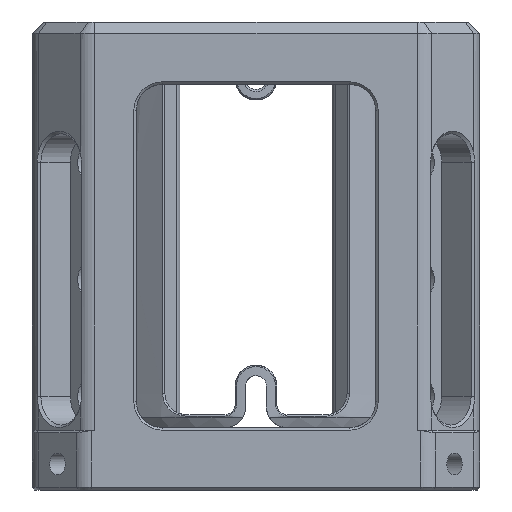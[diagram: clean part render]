
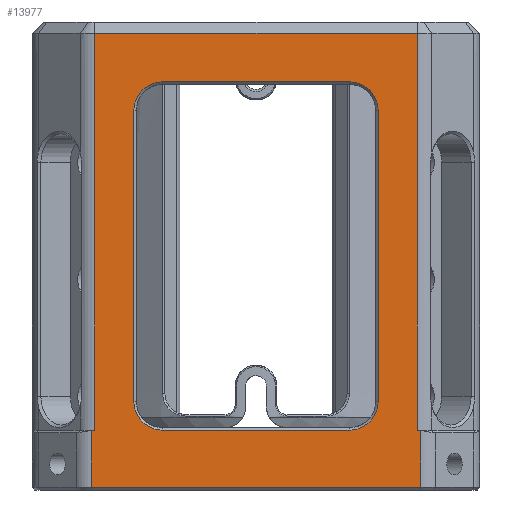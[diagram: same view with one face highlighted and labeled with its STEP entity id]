
A CAD part, left-side view. The second image highlights one B-rep face of the part: STEP entity #13977.
In plain terms, the highlighted planar face has unit normal (-1, 0, 0).
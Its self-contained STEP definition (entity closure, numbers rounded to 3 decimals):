
#9 = EDGE_CURVE ( 'NONE', #10538, #7887, #26449, .T. ) ;
#256 = CARTESIAN_POINT ( 'NONE',  ( -43., 31.004, -2.2 ) ) ;
#637 = CARTESIAN_POINT ( 'NONE',  ( -43., -31.24, -78.5 ) ) ;
#924 = CARTESIAN_POINT ( 'NONE',  ( -43., 31.004, -78.5 ) ) ;
#1035 = EDGE_CURVE ( 'NONE', #15631, #22535, #10073, .T. ) ;
#1316 = DIRECTION ( 'NONE',  ( 0., -1., 0. ) ) ;
#2174 = EDGE_CURVE ( 'NONE', #19218, #25813, #10167, .T. ) ;
#2239 = CARTESIAN_POINT ( 'NONE',  ( -43., -31.711, -90. ) ) ;
#3145 = ORIENTED_EDGE ( 'NONE', *, *, #11102, .T. ) ;
#3388 = CARTESIAN_POINT ( 'NONE',  ( -43., -18., -73. ) ) ;
#4357 = CIRCLE ( 'NONE', #10712, 5.5 ) ;
#4944 = ORIENTED_EDGE ( 'NONE', *, *, #7747, .F. ) ;
#4949 = ORIENTED_EDGE ( 'NONE', *, *, #31069, .T. ) ;
#5233 = DIRECTION ( 'NONE',  ( 0., 0., 1. ) ) ;
#5548 = ORIENTED_EDGE ( 'NONE', *, *, #19775, .T. ) ;
#6645 = VECTOR ( 'NONE', #8747, 1000. ) ;
#6648 = DIRECTION ( 'NONE',  ( 0., -1., 0. ) ) ;
#7267 = CARTESIAN_POINT ( 'NONE',  ( -43., 23.5, -17. ) ) ;
#7606 = CARTESIAN_POINT ( 'NONE',  ( -43., -18., -78.5 ) ) ;
#7747 = EDGE_CURVE ( 'NONE', #19241, #11961, #30032, .T. ) ;
#7764 = VECTOR ( 'NONE', #21383, 1000. ) ;
#7844 = ORIENTED_EDGE ( 'NONE', *, *, #1035, .T. ) ;
#7887 = VERTEX_POINT ( 'NONE', #24247 ) ;
#7939 = AXIS2_PLACEMENT_3D ( 'NONE', #25387, #22506, #27738 ) ;
#8594 = VECTOR ( 'NONE', #5233, 1000. ) ;
#8673 = VERTEX_POINT ( 'NONE', #29677 ) ;
#8747 = DIRECTION ( 'NONE',  ( 0., 1., 0. ) ) ;
#8951 = B_SPLINE_CURVE_WITH_KNOTS ( 'NONE', 3,
 ( #924, #22297, #11956, #23009 ),
 .UNSPECIFIED., .F., .F.,
 ( 4, 4 ),
 ( 0., 0.001 ),
 .UNSPECIFIED. ) ;
#9667 = B_SPLINE_CURVE_WITH_KNOTS ( 'NONE', 3,
 ( #17101, #28138, #637, #28499 ),
 .UNSPECIFIED., .F., .F.,
 ( 4, 4 ),
 ( 0., 0.001 ),
 .UNSPECIFIED. ) ;
#9823 = ORIENTED_EDGE ( 'NONE', *, *, #18467, .T. ) ;
#10017 = CIRCLE ( 'NONE', #23896, 5.5 ) ;
#10068 = ORIENTED_EDGE ( 'NONE', *, *, #33496, .T. ) ;
#10073 = LINE ( 'NONE', #34866, #28281 ) ;
#10142 = DIRECTION ( 'NONE',  ( 0., -1., 0. ) ) ;
#10167 = LINE ( 'NONE', #21212, #27225 ) ;
#10538 = VERTEX_POINT ( 'NONE', #17588 ) ;
#10556 = EDGE_LOOP ( 'NONE', ( #16761, #31574, #10068, #5548, #31052, #3145, #31683, #19803 ) ) ;
#10712 = AXIS2_PLACEMENT_3D ( 'NONE', #19466, #14574, #16755 ) ;
#11102 = EDGE_CURVE ( 'NONE', #34769, #10538, #19724, .T. ) ;
#11356 = ORIENTED_EDGE ( 'NONE', *, *, #11780, .T. ) ;
#11780 = EDGE_CURVE ( 'NONE', #15137, #15631, #9667, .T. ) ;
#11956 = CARTESIAN_POINT ( 'NONE',  ( -43., 31.476, -78.521 ) ) ;
#11961 = VERTEX_POINT ( 'NONE', #35527 ) ;
#11997 = VECTOR ( 'NONE', #21068, 1000. ) ;
#13054 = LINE ( 'NONE', #26628, #7764 ) ;
#13762 = DIRECTION ( 'NONE',  ( 0., -1., 0. ) ) ;
#13977 = ADVANCED_FACE ( 'NONE', ( #35290, #29499 ), #21362, .T. ) ;
#14160 = EDGE_LOOP ( 'NONE', ( #26657, #31561, #4949, #11356, #7844, #14370, #4944, #9823 ) ) ;
#14370 = ORIENTED_EDGE ( 'NONE', *, *, #28362, .T. ) ;
#14519 = EDGE_CURVE ( 'NONE', #22351, #35174, #35690, .T. ) ;
#14574 = DIRECTION ( 'NONE',  ( 1., 0., 0. ) ) ;
#14621 = VERTEX_POINT ( 'NONE', #34048 ) ;
#15034 = CARTESIAN_POINT ( 'NONE',  ( -43., 31.711, -89.5 ) ) ;
#15137 = VERTEX_POINT ( 'NONE', #23166 ) ;
#15179 = CARTESIAN_POINT ( 'NONE',  ( -43., 31.711, -78.562 ) ) ;
#15631 = VERTEX_POINT ( 'NONE', #24094 ) ;
#15743 = EDGE_CURVE ( 'NONE', #25558, #34769, #4357, .T. ) ;
#15870 = DIRECTION ( 'NONE',  ( 0., 0., 1. ) ) ;
#16335 = CARTESIAN_POINT ( 'NONE',  ( -43., 31.711, -90. ) ) ;
#16755 = DIRECTION ( 'NONE',  ( 0., -1., 0. ) ) ;
#16761 = ORIENTED_EDGE ( 'NONE', *, *, #18709, .T. ) ;
#17101 = CARTESIAN_POINT ( 'NONE',  ( -43., -31.711, -78.562 ) ) ;
#17588 = CARTESIAN_POINT ( 'NONE',  ( -43., -18., -11.5 ) ) ;
#17714 = DIRECTION ( 'NONE',  ( 0., -1., 0. ) ) ;
#17940 = CARTESIAN_POINT ( 'NONE',  ( -43., 31.004, -78.5 ) ) ;
#18279 = CARTESIAN_POINT ( 'NONE',  ( -43., -31.004, -2.2 ) ) ;
#18467 = EDGE_CURVE ( 'NONE', #19241, #35174, #8951, .T. ) ;
#18531 = AXIS2_PLACEMENT_3D ( 'NONE', #3388, #33612, #6648 ) ;
#18709 = EDGE_CURVE ( 'NONE', #31651, #19218, #27219, .T. ) ;
#19218 = VERTEX_POINT ( 'NONE', #7606 ) ;
#19241 = VERTEX_POINT ( 'NONE', #17940 ) ;
#19373 = CARTESIAN_POINT ( 'NONE',  ( -43., 18., -73. ) ) ;
#19466 = CARTESIAN_POINT ( 'NONE',  ( -43., 18., -17. ) ) ;
#19724 = LINE ( 'NONE', #20074, #30523 ) ;
#19775 = EDGE_CURVE ( 'NONE', #8673, #25558, #26845, .T. ) ;
#19803 = ORIENTED_EDGE ( 'NONE', *, *, #33257, .T. ) ;
#20074 = CARTESIAN_POINT ( 'NONE',  ( -43., -18., -11.5 ) ) ;
#20497 = VECTOR ( 'NONE', #29916, 1000. ) ;
#20880 = AXIS2_PLACEMENT_3D ( 'NONE', #29319, #26963, #10142 ) ;
#21068 = DIRECTION ( 'NONE',  ( 0., 0., 1. ) ) ;
#21145 = EDGE_CURVE ( 'NONE', #22351, #14621, #28822, .T. ) ;
#21212 = CARTESIAN_POINT ( 'NONE',  ( -43., 18., -78.5 ) ) ;
#21362 = PLANE ( 'NONE',  #20880 ) ;
#21383 = DIRECTION ( 'NONE',  ( 0., 0., -1. ) ) ;
#22297 = CARTESIAN_POINT ( 'NONE',  ( -43., 31.24, -78.5 ) ) ;
#22351 = VERTEX_POINT ( 'NONE', #15034 ) ;
#22487 = DIRECTION ( 'NONE',  ( 0., 0., 1. ) ) ;
#22506 = DIRECTION ( 'NONE',  ( 1., 0., 0. ) ) ;
#22535 = VERTEX_POINT ( 'NONE', #18279 ) ;
#23009 = CARTESIAN_POINT ( 'NONE',  ( -43., 31.711, -78.562 ) ) ;
#23097 = VECTOR ( 'NONE', #1316, 1000. ) ;
#23166 = CARTESIAN_POINT ( 'NONE',  ( -43., -31.711, -78.562 ) ) ;
#23896 = AXIS2_PLACEMENT_3D ( 'NONE', #19373, #30232, #13762 ) ;
#24094 = CARTESIAN_POINT ( 'NONE',  ( -43., -31.004, -78.5 ) ) ;
#24247 = CARTESIAN_POINT ( 'NONE',  ( -43., -23.5, -17. ) ) ;
#24955 = VECTOR ( 'NONE', #22487, 1000. ) ;
#25039 = LINE ( 'NONE', #256, #6645 ) ;
#25387 = CARTESIAN_POINT ( 'NONE',  ( -43., -18., -17. ) ) ;
#25558 = VERTEX_POINT ( 'NONE', #7267 ) ;
#25761 = CARTESIAN_POINT ( 'NONE',  ( -43., -31.711, -89.5 ) ) ;
#25813 = VERTEX_POINT ( 'NONE', #26060 ) ;
#26060 = CARTESIAN_POINT ( 'NONE',  ( -43., 18., -78.5 ) ) ;
#26449 = CIRCLE ( 'NONE', #7939, 5.5 ) ;
#26628 = CARTESIAN_POINT ( 'NONE',  ( -43., -23.5, -73. ) ) ;
#26657 = ORIENTED_EDGE ( 'NONE', *, *, #14519, .F. ) ;
#26845 = LINE ( 'NONE', #29377, #11997 ) ;
#26963 = DIRECTION ( 'NONE',  ( -1., 0., 0. ) ) ;
#27028 = LINE ( 'NONE', #2239, #20497 ) ;
#27219 = CIRCLE ( 'NONE', #18531, 5.5 ) ;
#27225 = VECTOR ( 'NONE', #32245, 1000. ) ;
#27738 = DIRECTION ( 'NONE',  ( 0., -1., 0. ) ) ;
#27902 = CARTESIAN_POINT ( 'NONE',  ( -43., -23.5, -73. ) ) ;
#28138 = CARTESIAN_POINT ( 'NONE',  ( -43., -31.476, -78.521 ) ) ;
#28281 = VECTOR ( 'NONE', #15870, 1000. ) ;
#28362 = EDGE_CURVE ( 'NONE', #22535, #11961, #25039, .T. ) ;
#28499 = CARTESIAN_POINT ( 'NONE',  ( -43., -31.004, -78.5 ) ) ;
#28822 = LINE ( 'NONE', #25761, #23097 ) ;
#29319 = CARTESIAN_POINT ( 'NONE',  ( -43., -31.711, -90. ) ) ;
#29377 = CARTESIAN_POINT ( 'NONE',  ( -43., 23.5, -17. ) ) ;
#29499 = FACE_OUTER_BOUND ( 'NONE', #14160, .T. ) ;
#29677 = CARTESIAN_POINT ( 'NONE',  ( -43., 23.5, -73. ) ) ;
#29916 = DIRECTION ( 'NONE',  ( 0., 0., 1. ) ) ;
#30032 = LINE ( 'NONE', #35106, #8594 ) ;
#30232 = DIRECTION ( 'NONE',  ( 1., 0., 0. ) ) ;
#30523 = VECTOR ( 'NONE', #17714, 1000. ) ;
#31052 = ORIENTED_EDGE ( 'NONE', *, *, #15743, .T. ) ;
#31069 = EDGE_CURVE ( 'NONE', #14621, #15137, #27028, .T. ) ;
#31561 = ORIENTED_EDGE ( 'NONE', *, *, #21145, .T. ) ;
#31574 = ORIENTED_EDGE ( 'NONE', *, *, #2174, .T. ) ;
#31651 = VERTEX_POINT ( 'NONE', #27902 ) ;
#31683 = ORIENTED_EDGE ( 'NONE', *, *, #9, .T. ) ;
#32245 = DIRECTION ( 'NONE',  ( 0., 1., 0. ) ) ;
#33084 = CARTESIAN_POINT ( 'NONE',  ( -43., 18., -11.5 ) ) ;
#33257 = EDGE_CURVE ( 'NONE', #7887, #31651, #13054, .T. ) ;
#33496 = EDGE_CURVE ( 'NONE', #25813, #8673, #10017, .T. ) ;
#33612 = DIRECTION ( 'NONE',  ( 1., 0., 0. ) ) ;
#34048 = CARTESIAN_POINT ( 'NONE',  ( -43., -31.711, -89.5 ) ) ;
#34769 = VERTEX_POINT ( 'NONE', #33084 ) ;
#34866 = CARTESIAN_POINT ( 'NONE',  ( -43., -31.004, -270.726 ) ) ;
#35106 = CARTESIAN_POINT ( 'NONE',  ( -43., 31.004, -270.726 ) ) ;
#35174 = VERTEX_POINT ( 'NONE', #15179 ) ;
#35290 = FACE_BOUND ( 'NONE', #10556, .T. ) ;
#35527 = CARTESIAN_POINT ( 'NONE',  ( -43., 31.004, -2.2 ) ) ;
#35690 = LINE ( 'NONE', #16335, #24955 ) ;
